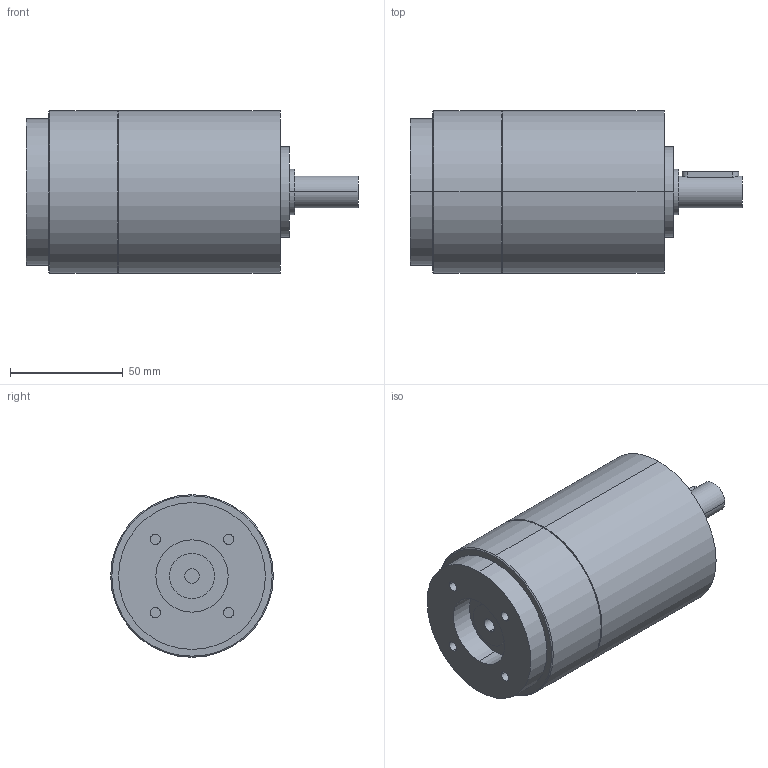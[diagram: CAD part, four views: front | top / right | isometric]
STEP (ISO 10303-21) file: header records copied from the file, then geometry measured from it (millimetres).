
FILE_DESCRIPTION(('CoCreate Modeling STEP Export'),'2;1');
FILE_NAME('GPT75_ig-9-12-16-20-25-28-35-40-50-70-100_14_B14T_6.35_P12.stp','2014-08-27T13:17:49',(''),(''),'CoCreate Modeling STEP processor for AP214 (Solid Model)','CoCreate Modeling 16.00C 25-Feb-2009 (C) Parametric Technology GmbH','');
FILE_SCHEMA(('AUTOMOTIVE_DESIGN { 1 0 10303 214 1 1 1 1 }'));
Length unit declared in the file: millimetre
Products named in the file (2): GPT75_ig-9-12-16-20-25-28-35-40-50-70-100_14_B14T_6.35_P12
Assembly tree (1 placements, depth 2):
  GPT75_ig-9-12-16-20-25-28-35-40-50-70-100_14_B14T_6.35_P12
    GPT75_ig-9-12-16-20-25-28-35-40-50-70-100_14_B14T_6.35_P12
Bounding box: 147 x 72 x 72 mm (x, y, z)
Volume: 451221.3 mm3; surface area: 38729.5 mm2
Topology: 1 solids, 1 shells, 64 faces, 142 edges, 97 vertices
Faces by surface type: cylinder 38, plane 22, cone 4
Entity records: 1878 total; most frequent: CARTESIAN_POINT 614, ORIENTED_EDGE 284, DIRECTION 210, EDGE_CURVE 142, VERTEX_POINT 97, AXIS2_PLACEMENT_3D 81, EDGE_LOOP 81, FACE_OUTER_BOUND 64
